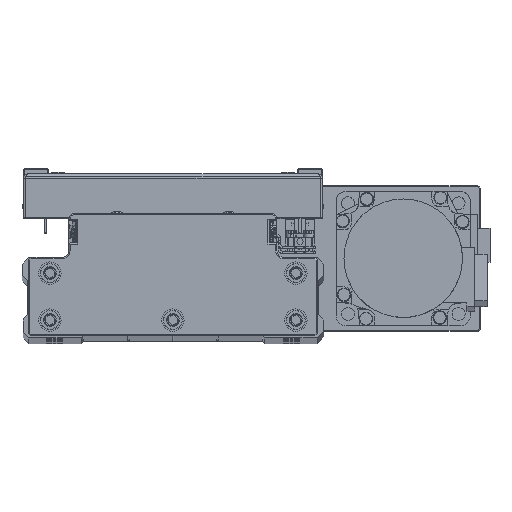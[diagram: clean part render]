
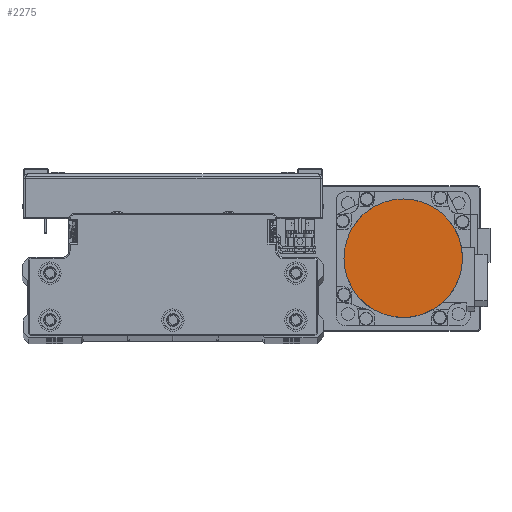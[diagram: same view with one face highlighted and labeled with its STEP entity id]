
A CAD part, top view. The second image highlights one B-rep face of the part: STEP entity #2275.
In plain terms, the highlighted planar face has unit normal (0, 0, 1) as drawn and (0, 0, -1) by its records, which use the part's own axes.
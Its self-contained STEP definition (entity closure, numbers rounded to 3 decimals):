
#383 = ORIENTED_EDGE ( 'NONE', *, *, #4283, .F. ) ;
#640 = CARTESIAN_POINT ( 'NONE',  ( -23.819, -11.744, -109.7 ) ) ;
#881 = CARTESIAN_POINT ( 'NONE',  ( 3.469, -26.329, -109.7 ) ) ;
#1036 = CARTESIAN_POINT ( 'NONE',  ( 17.512, 19.965, -109.7 ) ) ;
#1102 = CARTESIAN_POINT ( 'NONE',  ( 26.329, -3.469, -109.7 ) ) ;
#1247 = CARTESIAN_POINT ( 'NONE',  ( -13.28, 22.998, -109.7 ) ) ;
#2275 = ADVANCED_FACE ( 'NONE', ( #6302 ), #20211, .F. ) ;
#2904 = DIRECTION ( 'NONE',  ( 0., 0., 1. ) ) ;
#4050 = CARTESIAN_POINT ( 'NONE',  ( -26.329, -3.469, -109.7 ) ) ;
#4283 = EDGE_CURVE ( 'NONE', #41688, #18595, #36841, .T. ) ;
#4287 = CARTESIAN_POINT ( 'NONE',  ( -3.469, -26.329, -109.7 ) ) ;
#4452 = CARTESIAN_POINT ( 'NONE',  ( 22.998, 13.28, -109.7 ) ) ;
#4521 = CARTESIAN_POINT ( 'NONE',  ( 23.819, -11.744, -109.7 ) ) ;
#4673 = CARTESIAN_POINT ( 'NONE',  ( -6.871, 25.652, -109.7 ) ) ;
#4882 = CARTESIAN_POINT ( 'NONE',  ( -26.5, 1.734, -109.7 ) ) ;
#6302 = FACE_OUTER_BOUND ( 'NONE', #17929, .T. ) ;
#7696 = CARTESIAN_POINT ( 'NONE',  ( -11.744, -23.819, -109.7 ) ) ;
#7849 = CARTESIAN_POINT ( 'NONE',  ( 25.652, 6.871, -109.7 ) ) ;
#7928 = CARTESIAN_POINT ( 'NONE',  ( 19.965, -17.512, -109.7 ) ) ;
#8089 = CARTESIAN_POINT ( 'NONE',  ( 1.734, 26.5, -109.7 ) ) ;
#8318 = CARTESIAN_POINT ( 'NONE',  ( -25.147, 8.539, -109.7 ) ) ;
#10575 = EDGE_CURVE ( 'NONE', #18595, #41688, #24614, .T. ) ;
#11120 = CARTESIAN_POINT ( 'NONE',  ( -17.512, -19.965, -109.7 ) ) ;
#11271 = CARTESIAN_POINT ( 'NONE',  ( 26.5, 0., -109.7 ) ) ;
#11335 = CARTESIAN_POINT ( 'NONE',  ( 13.28, -22.998, -109.7 ) ) ;
#11492 = CARTESIAN_POINT ( 'NONE',  ( 8.539, 25.147, -109.7 ) ) ;
#11729 = CARTESIAN_POINT ( 'NONE',  ( -21.07, 16.165, -109.7 ) ) ;
#13046 = CARTESIAN_POINT ( 'NONE',  ( -26.5, 0., -109.7 ) ) ;
#14528 = CARTESIAN_POINT ( 'NONE',  ( -22.998, -13.28, -109.7 ) ) ;
#14775 = CARTESIAN_POINT ( 'NONE',  ( 6.871, -25.652, -109.7 ) ) ;
#14926 = CARTESIAN_POINT ( 'NONE',  ( 16.165, 21.07, -109.7 ) ) ;
#14990 = CARTESIAN_POINT ( 'NONE',  ( 26.5, -1.734, -109.7 ) ) ;
#15141 = CARTESIAN_POINT ( 'NONE',  ( -16.165, 21.07, -109.7 ) ) ;
#16097 = ORIENTED_EDGE ( 'NONE', *, *, #10575, .F. ) ;
#16799 = DIRECTION ( 'NONE',  ( 1., 0., 0. ) ) ;
#17929 = EDGE_LOOP ( 'NONE', ( #383, #16097 ) ) ;
#17954 = CARTESIAN_POINT ( 'NONE',  ( -25.652, -6.871, -109.7 ) ) ;
#18195 = CARTESIAN_POINT ( 'NONE',  ( -1.734, -26.5, -109.7 ) ) ;
#18356 = CARTESIAN_POINT ( 'NONE',  ( 21.07, 16.165, -109.7 ) ) ;
#18428 = CARTESIAN_POINT ( 'NONE',  ( 25.147, -8.539, -109.7 ) ) ;
#18573 = CARTESIAN_POINT ( 'NONE',  ( -8.539, 25.147, -109.7 ) ) ;
#18595 = VERTEX_POINT ( 'NONE', #13046 ) ;
#18786 = CARTESIAN_POINT ( 'NONE',  ( -26.5, 0., -109.7 ) ) ;
#20211 = PLANE ( 'NONE',  #35612 ) ;
#21386 = CARTESIAN_POINT ( 'NONE',  ( -26.5, 0., -109.7 ) ) ;
#21599 = CARTESIAN_POINT ( 'NONE',  ( -8.539, -25.147, -109.7 ) ) ;
#21760 = CARTESIAN_POINT ( 'NONE',  ( 25.147, 8.539, -109.7 ) ) ;
#21834 = CARTESIAN_POINT ( 'NONE',  ( 21.07, -16.165, -109.7 ) ) ;
#21993 = CARTESIAN_POINT ( 'NONE',  ( -1.734, 26.5, -109.7 ) ) ;
#22209 = CARTESIAN_POINT ( 'NONE',  ( -25.652, 6.871, -109.7 ) ) ;
#24614 = B_SPLINE_CURVE_WITH_KNOTS ( 'NONE', 3,
 ( #21386, #35338, #4050, #17954, #31869, #640, #14528, #28438, #42448, #11120, #25032, #39024, #7696, #21599, #35557, #4287, #18195, #32115, #881, #14775, #28679, #42677, #11335, #25245, #39244, #7928, #21834, #35801, #4521, #18428, #32347, #1102, #14990, #28893 ),
 .UNSPECIFIED., .F., .F.,
 ( 4, 2, 2, 2, 2, 2, 2, 2, 2, 2, 2, 2, 2, 2, 2, 2, 4 ),
 ( 0., 0.063, 0.125, 0.188, 0.25, 0.312, 0.375, 0.437, 0.5, 0.562, 0.625, 0.687, 0.75, 0.813, 0.875, 0.938, 1. ),
 .UNSPECIFIED. ) ;
#25032 = CARTESIAN_POINT ( 'NONE',  ( -16.165, -21.07, -109.7 ) ) ;
#25179 = CARTESIAN_POINT ( 'NONE',  ( 26.5, 1.734, -109.7 ) ) ;
#25245 = CARTESIAN_POINT ( 'NONE',  ( 16.165, -21.07, -109.7 ) ) ;
#25403 = CARTESIAN_POINT ( 'NONE',  ( 6.871, 25.652, -109.7 ) ) ;
#25637 = CARTESIAN_POINT ( 'NONE',  ( -22.998, 13.28, -109.7 ) ) ;
#28438 = CARTESIAN_POINT ( 'NONE',  ( -21.07, -16.165, -109.7 ) ) ;
#28679 = CARTESIAN_POINT ( 'NONE',  ( 8.539, -25.147, -109.7 ) ) ;
#28823 = CARTESIAN_POINT ( 'NONE',  ( 13.28, 22.998, -109.7 ) ) ;
#28893 = CARTESIAN_POINT ( 'NONE',  ( 26.5, 0., -109.7 ) ) ;
#29056 = CARTESIAN_POINT ( 'NONE',  ( -17.512, 19.965, -109.7 ) ) ;
#29786 = CARTESIAN_POINT ( 'NONE',  ( 26.5, 0., -109.7 ) ) ;
#31869 = CARTESIAN_POINT ( 'NONE',  ( -25.147, -8.539, -109.7 ) ) ;
#32115 = CARTESIAN_POINT ( 'NONE',  ( 1.734, -26.5, -109.7 ) ) ;
#32276 = CARTESIAN_POINT ( 'NONE',  ( 19.965, 17.512, -109.7 ) ) ;
#32347 = CARTESIAN_POINT ( 'NONE',  ( 25.652, -6.871, -109.7 ) ) ;
#32491 = CARTESIAN_POINT ( 'NONE',  ( -11.744, 23.819, -109.7 ) ) ;
#34160 = CARTESIAN_POINT ( 'NONE',  ( 0., 0., -109.7 ) ) ;
#35338 = CARTESIAN_POINT ( 'NONE',  ( -26.5, -1.734, -109.7 ) ) ;
#35557 = CARTESIAN_POINT ( 'NONE',  ( -6.871, -25.652, -109.7 ) ) ;
#35612 = AXIS2_PLACEMENT_3D ( 'NONE', #34160, #2904, #16799 ) ;
#35729 = CARTESIAN_POINT ( 'NONE',  ( 23.819, 11.744, -109.7 ) ) ;
#35801 = CARTESIAN_POINT ( 'NONE',  ( 22.998, -13.28, -109.7 ) ) ;
#35956 = CARTESIAN_POINT ( 'NONE',  ( -3.469, 26.329, -109.7 ) ) ;
#36162 = CARTESIAN_POINT ( 'NONE',  ( -26.329, 3.469, -109.7 ) ) ;
#36841 = B_SPLINE_CURVE_WITH_KNOTS ( 'NONE', 3,
 ( #11271, #25179, #39175, #7849, #21760, #35729, #4452, #18356, #32276, #1036, #14926, #28823, #42821, #11492, #25403, #39408, #8089, #21993, #35956, #4673, #18573, #32491, #1247, #15141, #29056, #43055, #11729, #25637, #39644, #8318, #22209, #36162, #4882, #18786 ),
 .UNSPECIFIED., .F., .F.,
 ( 4, 2, 2, 2, 2, 2, 2, 2, 2, 2, 2, 2, 2, 2, 2, 2, 4 ),
 ( 0., 0.062, 0.125, 0.187, 0.25, 0.312, 0.375, 0.437, 0.5, 0.562, 0.625, 0.687, 0.75, 0.813, 0.875, 0.938, 1. ),
 .UNSPECIFIED. ) ;
#39024 = CARTESIAN_POINT ( 'NONE',  ( -13.28, -22.998, -109.7 ) ) ;
#39175 = CARTESIAN_POINT ( 'NONE',  ( 26.329, 3.469, -109.7 ) ) ;
#39244 = CARTESIAN_POINT ( 'NONE',  ( 17.512, -19.965, -109.7 ) ) ;
#39408 = CARTESIAN_POINT ( 'NONE',  ( 3.469, 26.329, -109.7 ) ) ;
#39644 = CARTESIAN_POINT ( 'NONE',  ( -23.819, 11.744, -109.7 ) ) ;
#41688 = VERTEX_POINT ( 'NONE', #29786 ) ;
#42448 = CARTESIAN_POINT ( 'NONE',  ( -19.965, -17.512, -109.7 ) ) ;
#42677 = CARTESIAN_POINT ( 'NONE',  ( 11.744, -23.819, -109.7 ) ) ;
#42821 = CARTESIAN_POINT ( 'NONE',  ( 11.744, 23.819, -109.7 ) ) ;
#43055 = CARTESIAN_POINT ( 'NONE',  ( -19.965, 17.512, -109.7 ) ) ;
